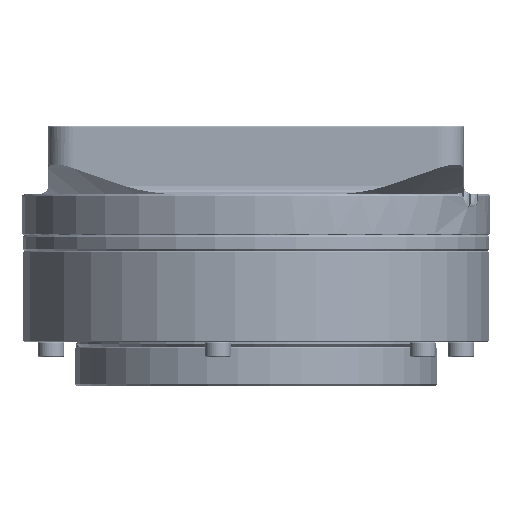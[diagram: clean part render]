
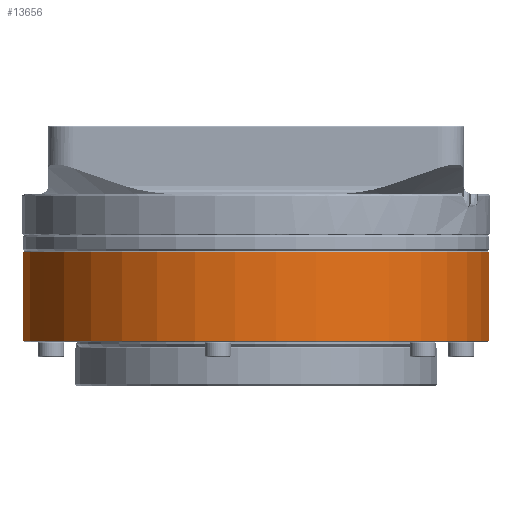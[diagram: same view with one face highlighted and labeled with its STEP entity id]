
A CAD part, left-side view. The second image highlights one B-rep face of the part: STEP entity #13656.
In plain terms, the highlighted cylindrical face has radius 45 mm (diameter 90 mm), a partial arc.
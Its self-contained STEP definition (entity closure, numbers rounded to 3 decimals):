
#1942 = FACE_OUTER_BOUND ( 'NONE', #32307, .T. ) ;
#6892 = CARTESIAN_POINT ( 'NONE',  ( 45., 0., 17.3 ) ) ;
#8956 = CYLINDRICAL_SURFACE ( 'NONE', #67423, 45. ) ;
#13656 = ADVANCED_FACE ( 'NONE', ( #1942 ), #8956, .T. ) ;
#14192 = DIRECTION ( 'NONE',  ( 0., 0., 1. ) ) ;
#14939 = CARTESIAN_POINT ( 'NONE',  ( -45., 0., 27.422 ) ) ;
#15105 = CARTESIAN_POINT ( 'NONE',  ( 0., 0., 27.422 ) ) ;
#15173 = LINE ( 'NONE', #14939, #97308 ) ;
#20969 = VECTOR ( 'NONE', #131025, 1000. ) ;
#32307 = EDGE_LOOP ( 'NONE', ( #121215, #136433, #58493, #157941, #81471 ) ) ;
#33459 = VERTEX_POINT ( 'NONE', #44062 ) ;
#34247 = EDGE_CURVE ( 'NONE', #137771, #130179, #102498, .T. ) ;
#44062 = CARTESIAN_POINT ( 'NONE',  ( 45., 0., 0.2 ) ) ;
#46141 = CARTESIAN_POINT ( 'NONE',  ( -45., 0., 0.2 ) ) ;
#46819 = CARTESIAN_POINT ( 'NONE',  ( 0., 0., 0.2 ) ) ;
#50969 = EDGE_CURVE ( 'NONE', #126488, #130179, #15173, .T. ) ;
#52218 = DIRECTION ( 'NONE',  ( 0., 0., 1. ) ) ;
#58493 = ORIENTED_EDGE ( 'NONE', *, *, #117810, .T. ) ;
#67423 = AXIS2_PLACEMENT_3D ( 'NONE', #15105, #114150, #109306 ) ;
#67467 = DIRECTION ( 'NONE',  ( 1., 0., 0. ) ) ;
#74011 = CARTESIAN_POINT ( 'NONE',  ( -45., 0., 17.3 ) ) ;
#78115 = EDGE_CURVE ( 'NONE', #33459, #137771, #131252, .T. ) ;
#81471 = ORIENTED_EDGE ( 'NONE', *, *, #34247, .T. ) ;
#97308 = VECTOR ( 'NONE', #14192, 1000. ) ;
#102498 = CIRCLE ( 'NONE', #131031, 45. ) ;
#109306 = DIRECTION ( 'NONE',  ( 1., 0., 0. ) ) ;
#113314 = DIRECTION ( 'NONE',  ( 1., 0., 0. ) ) ;
#113426 = DIRECTION ( 'NONE',  ( 0., 0., -1. ) ) ;
#113533 = CARTESIAN_POINT ( 'NONE',  ( 0., -45., 0.2 ) ) ;
#113542 = CARTESIAN_POINT ( 'NONE',  ( 0., 0., 17.3 ) ) ;
#114150 = DIRECTION ( 'NONE',  ( 0., 0., 1. ) ) ;
#117810 = EDGE_CURVE ( 'NONE', #130689, #33459, #146344, .T. ) ;
#121215 = ORIENTED_EDGE ( 'NONE', *, *, #50969, .F. ) ;
#121685 = DIRECTION ( 'NONE',  ( 1., 0., 0. ) ) ;
#126488 = VERTEX_POINT ( 'NONE', #46141 ) ;
#130179 = VERTEX_POINT ( 'NONE', #74011 ) ;
#130689 = VERTEX_POINT ( 'NONE', #113533 ) ;
#131025 = DIRECTION ( 'NONE',  ( 0., 0., 1. ) ) ;
#131031 = AXIS2_PLACEMENT_3D ( 'NONE', #113542, #113426, #113314 ) ;
#131136 = CARTESIAN_POINT ( 'NONE',  ( 45., 0., 27.422 ) ) ;
#131252 = LINE ( 'NONE', #131136, #20969 ) ;
#136433 = ORIENTED_EDGE ( 'NONE', *, *, #145883, .T. ) ;
#136882 = DIRECTION ( 'NONE',  ( 0., 0., 1. ) ) ;
#137771 = VERTEX_POINT ( 'NONE', #6892 ) ;
#139712 = AXIS2_PLACEMENT_3D ( 'NONE', #46819, #136882, #67467 ) ;
#141718 = CIRCLE ( 'NONE', #139712, 45. ) ;
#142265 = CARTESIAN_POINT ( 'NONE',  ( 0., 0., 0.2 ) ) ;
#144064 = AXIS2_PLACEMENT_3D ( 'NONE', #142265, #52218, #121685 ) ;
#145883 = EDGE_CURVE ( 'NONE', #126488, #130689, #141718, .T. ) ;
#146344 = CIRCLE ( 'NONE', #144064, 45. ) ;
#157941 = ORIENTED_EDGE ( 'NONE', *, *, #78115, .T. ) ;
